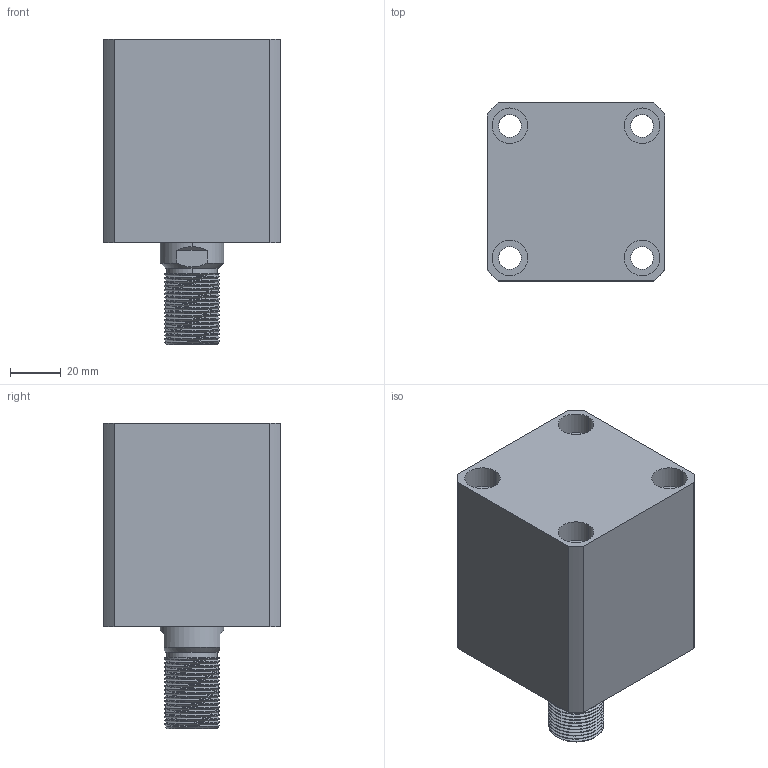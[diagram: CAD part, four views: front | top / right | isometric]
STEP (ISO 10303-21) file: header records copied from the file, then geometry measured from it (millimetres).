
FILE_DESCRIPTION (( 'STEP AP214' ), '1' );
FILE_NAME ('chtb-sd40x25w_asm.STEP', '2018-06-08T06:37:14', ( 'Windows' ), ( 'Microsoft' ), 'SwSTEP 2.0', 'SolidWorks 2015', '' );
FILE_SCHEMA (( 'AUTOMOTIVE_DESIGN' ));
Length unit declared in the file: millimetre
Products named in the file (4): CHTB-SD40X25WHSG; CHTB-SD40X25NBT; CHTB-SD40QG; chtb-sd40x25w_asm
Assembly tree (3 placements, depth 2):
  chtb-sd40x25w_asm
    CHTB-SD40QG
    CHTB-SD40X25NBT
    CHTB-SD40X25WHSG
Bounding box: 70 x 70 x 120 mm (x, y, z)
Volume: 352309.3 mm3; surface area: 75852.3 mm2
Topology: 3 solids, 4 shells, 203 faces, 533 edges, 355 vertices
Faces by surface type: cylinder 118, plane 40, bspline 16, cone 15, torus 14
Entity records: 13425 total; most frequent: CARTESIAN_POINT 8554, ORIENTED_EDGE 1054, DIRECTION 914, EDGE_CURVE 527, AXIS2_PLACEMENT_3D 380, VERTEX_POINT 355, EDGE_LOOP 240, ADVANCED_FACE 203
